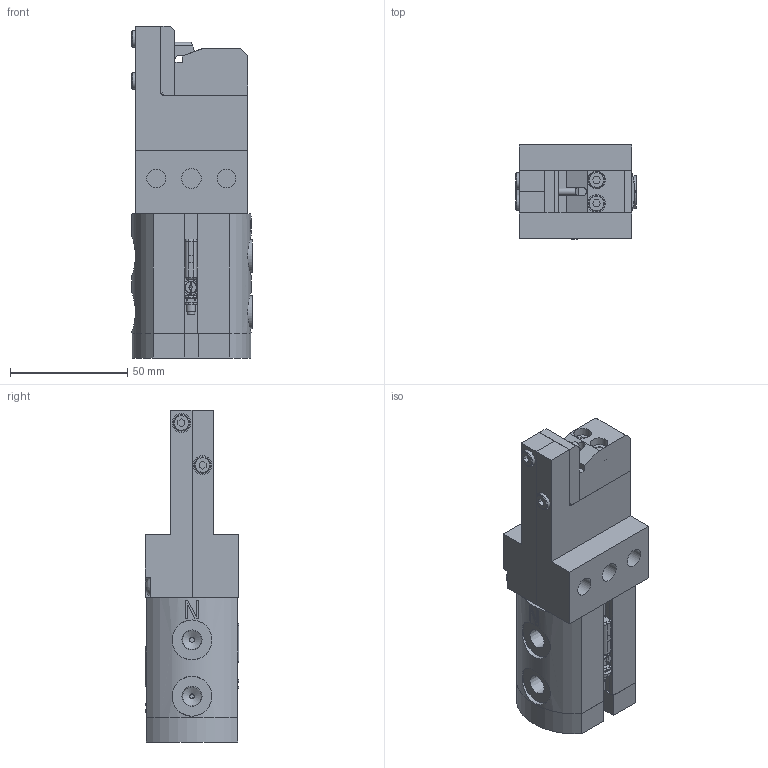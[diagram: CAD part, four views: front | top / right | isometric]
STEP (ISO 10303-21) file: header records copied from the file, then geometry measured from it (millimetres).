
FILE_DESCRIPTION(/* description */ ('WIRE CLAMP'),/* implementation_level */ '2;1');
FILE_NAME(/* name */ 'C:\Vault Workspace\CAD\Welker\Wire Clamps\Standard\Step Files\TCA030NL3X0.stp',/* time_stamp */ '2021-12-13T09:39:24-05:00',/* author */ ('JPX'),/* organization */ (''),/* preprocessor_version */ 'ST-DEVELOPER v18.1',/* originating_system */ 'Autodesk Inventor 2020',/* authorisation */ '');
FILE_SCHEMA (('AUTOMOTIVE_DESIGN { 1 0 10303 214 3 1 1 }'));
Products named in the file (17): TCAL01; TCAE09; TCAE08; BIM-UNT-Sensor; G1/8; NL5; M5X0.8-65 SHCS; TCAE01; TCAE02; TCAE03-0300; TCAE04; TCAE05; M4X0.7-12 SHCS; M4X0.7-20 SHCS; M4X0.7-25 BHCS; 4mmX12 ; 6mmX12 
Assembly tree (28 placements, depth 2):
  TCAL01
    TCAE09
    TCAE08
    BIM-UNT-Sensor  x2
    G1/8  x2
    NL5  x4
    M5X0.8-65 SHCS  x4
    TCAE01
    TCAE02
    TCAE03-0300
    TCAE04
    TCAE05
    M4X0.7-12 SHCS  x2
    M4X0.7-20 SHCS  x2
    M4X0.7-25 BHCS  x2
    4mmX12   x2
    6mmX12 
Bounding box: 51.5 x 40 x 141.5 mm (x, y, z)
Volume: 164060.4 mm3; surface area: 71713.2 mm2
Topology: 30 solids, 30 shells, 698 faces, 1774 edges, 1199 vertices
Faces by surface type: plane 417, cylinder 173, cone 55, bspline 42, torus 11
Full cylindrical faces by diameter (mm): 1.9 x2, 2 x4, 2.6 x2, 3.2 x2, 3.242 x6, 4 x14, 4.134 x4, 4.5 x6, 5 x6, 5.4 x4, 5.5 x8, 6 x4, 7 x4, 7.5 x2, 7.6 x2, 7.914 x2, 8 x6, 8.376 x2, 8.5 x4, 9 x4, 10 x7, 12 x1, 13.6 x1, 14 x2, 17 x4, 21.4 x1, 25 x2, 25.05 x1
Entity records: 25415 total; most frequent: CARTESIAN_POINT 12193, DIRECTION 2633, ORIENTED_EDGE 2554, EDGE_CURVE 1277, AXIS2_PLACEMENT_3D 939, VERTEX_POINT 882, LINE 755, VECTOR 755
